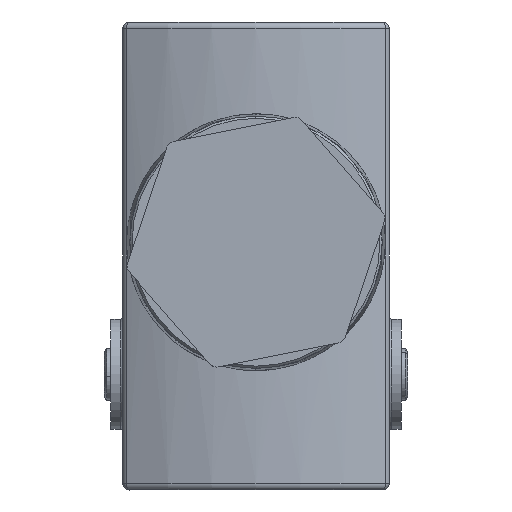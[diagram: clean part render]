
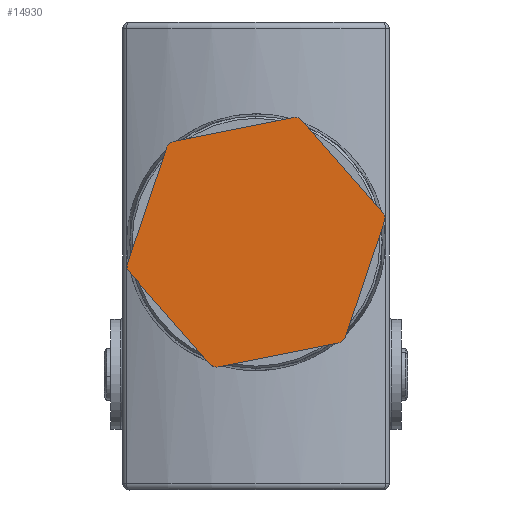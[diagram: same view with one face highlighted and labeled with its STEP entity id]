
A CAD part, front view. The second image highlights one B-rep face of the part: STEP entity #14930.
In plain terms, the highlighted planar face has unit normal (0, -1, 0).
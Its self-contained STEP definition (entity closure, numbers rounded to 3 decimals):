
#361=PLANE('',#16860);
#1417=FACE_OUTER_BOUND('',#1954,.T.);
#1954=EDGE_LOOP('',(#14138,#14139,#14140,#14141,#14142,#14143,#14144,#14145,
#14146,#14147,#14148,#14149));
#4033=LINE('',#43786,#5437);
#4034=LINE('',#43790,#5438);
#4035=LINE('',#43794,#5439);
#4036=LINE('',#43798,#5440);
#4037=LINE('',#43802,#5441);
#4038=LINE('',#43806,#5442);
#5437=VECTOR('',#20017,28.29);
#5438=VECTOR('',#20020,28.29);
#5439=VECTOR('',#20023,28.29);
#5440=VECTOR('',#20026,28.29);
#5441=VECTOR('',#20029,28.29);
#5442=VECTOR('',#20032,28.29);
#6076=CIRCLE('',#16861,2.);
#6077=CIRCLE('',#16862,2.);
#6078=CIRCLE('',#16863,2.);
#6079=CIRCLE('',#16864,2.);
#6080=CIRCLE('',#16865,2.);
#6081=CIRCLE('',#16866,2.);
#8622=VERTEX_POINT('',#43784);
#8623=VERTEX_POINT('',#43785);
#8624=VERTEX_POINT('',#43787);
#8625=VERTEX_POINT('',#43789);
#8626=VERTEX_POINT('',#43791);
#8627=VERTEX_POINT('',#43793);
#8628=VERTEX_POINT('',#43795);
#8629=VERTEX_POINT('',#43797);
#8630=VERTEX_POINT('',#43799);
#8631=VERTEX_POINT('',#43801);
#8632=VERTEX_POINT('',#43803);
#8633=VERTEX_POINT('',#43805);
#11380=EDGE_CURVE('',#8622,#8623,#4033,.T.);
#11381=EDGE_CURVE('',#8623,#8624,#6076,.T.);
#11382=EDGE_CURVE('',#8624,#8625,#4034,.T.);
#11383=EDGE_CURVE('',#8625,#8626,#6077,.T.);
#11384=EDGE_CURVE('',#8626,#8627,#4035,.T.);
#11385=EDGE_CURVE('',#8627,#8628,#6078,.T.);
#11386=EDGE_CURVE('',#8628,#8629,#4036,.T.);
#11387=EDGE_CURVE('',#8629,#8630,#6079,.T.);
#11388=EDGE_CURVE('',#8630,#8631,#4037,.T.);
#11389=EDGE_CURVE('',#8631,#8632,#6080,.T.);
#11390=EDGE_CURVE('',#8632,#8633,#4038,.T.);
#11391=EDGE_CURVE('',#8633,#8622,#6081,.T.);
#14138=ORIENTED_EDGE('',*,*,#11380,.T.);
#14139=ORIENTED_EDGE('',*,*,#11381,.T.);
#14140=ORIENTED_EDGE('',*,*,#11382,.T.);
#14141=ORIENTED_EDGE('',*,*,#11383,.T.);
#14142=ORIENTED_EDGE('',*,*,#11384,.T.);
#14143=ORIENTED_EDGE('',*,*,#11385,.T.);
#14144=ORIENTED_EDGE('',*,*,#11386,.T.);
#14145=ORIENTED_EDGE('',*,*,#11387,.T.);
#14146=ORIENTED_EDGE('',*,*,#11388,.T.);
#14147=ORIENTED_EDGE('',*,*,#11389,.T.);
#14148=ORIENTED_EDGE('',*,*,#11390,.T.);
#14149=ORIENTED_EDGE('',*,*,#11391,.T.);
#14930=ADVANCED_FACE('',(#1417),#361,.T.);
#16860=AXIS2_PLACEMENT_3D('',#43783,#20015,#20016);
#16861=AXIS2_PLACEMENT_3D('',#43788,#20018,#20019);
#16862=AXIS2_PLACEMENT_3D('',#43792,#20021,#20022);
#16863=AXIS2_PLACEMENT_3D('',#43796,#20024,#20025);
#16864=AXIS2_PLACEMENT_3D('',#43800,#20027,#20028);
#16865=AXIS2_PLACEMENT_3D('',#43804,#20030,#20031);
#16866=AXIS2_PLACEMENT_3D('',#43807,#20033,#20034);
#20015=DIRECTION('center_axis',(0.,-1.,0.));
#20016=DIRECTION('ref_axis',(0.,0.,-1.));
#20017=DIRECTION('',(0.66,0.,-0.751));
#20018=DIRECTION('center_axis',(0.,-1.,0.));
#20019=DIRECTION('ref_axis',(-0.751,0.,-0.66));
#20020=DIRECTION('',(0.981,0.,0.196));
#20021=DIRECTION('center_axis',(0.,-1.,0.));
#20022=DIRECTION('ref_axis',(0.196,0.,-0.981));
#20023=DIRECTION('',(0.321,0.,0.947));
#20024=DIRECTION('center_axis',(0.,-1.,0.));
#20025=DIRECTION('ref_axis',(0.947,0.,-0.321));
#20026=DIRECTION('',(-0.66,0.,0.751));
#20027=DIRECTION('center_axis',(0.,-1.,0.));
#20028=DIRECTION('ref_axis',(0.751,0.,0.66));
#20029=DIRECTION('',(-0.981,0.,-0.196));
#20030=DIRECTION('center_axis',(0.,-1.,0.));
#20031=DIRECTION('ref_axis',(-0.196,0.,0.981));
#20032=DIRECTION('',(-0.321,0.,-0.947));
#20033=DIRECTION('center_axis',(0.,-1.,0.));
#20034=DIRECTION('ref_axis',(-0.947,0.,0.321));
#43783=CARTESIAN_POINT('Origin',(30.126,-95.324,5.653));
#43784=CARTESIAN_POINT('',(-29.245,-95.324,-6.861));
#43785=CARTESIAN_POINT('',(-10.575,-95.324,-28.116));
#43786=CARTESIAN_POINT('',(-29.245,-95.324,-6.861));
#43787=CARTESIAN_POINT('',(-8.681,-95.324,-28.757));
#43788=CARTESIAN_POINT('Origin',(-9.072,-95.324,-26.796));
#43789=CARTESIAN_POINT('',(19.061,-95.324,-23.216));
#43790=CARTESIAN_POINT('',(-8.681,-95.324,-28.757));
#43791=CARTESIAN_POINT('',(20.564,-95.324,-21.896));
#43792=CARTESIAN_POINT('Origin',(18.67,-95.324,-21.255));
#43793=CARTESIAN_POINT('',(29.637,-95.324,4.9));
#43794=CARTESIAN_POINT('',(20.564,-95.324,-21.896));
#43795=CARTESIAN_POINT('',(29.245,-95.324,6.861));
#43796=CARTESIAN_POINT('Origin',(27.742,-95.324,5.541));
#43797=CARTESIAN_POINT('',(10.575,-95.324,28.116));
#43798=CARTESIAN_POINT('',(29.245,-95.324,6.861));
#43799=CARTESIAN_POINT('',(8.681,-95.324,28.757));
#43800=CARTESIAN_POINT('Origin',(9.072,-95.324,26.796));
#43801=CARTESIAN_POINT('',(-19.061,-95.324,23.216));
#43802=CARTESIAN_POINT('',(8.681,-95.324,28.757));
#43803=CARTESIAN_POINT('',(-20.564,-95.324,21.896));
#43804=CARTESIAN_POINT('Origin',(-18.67,-95.324,21.255));
#43805=CARTESIAN_POINT('',(-29.637,-95.324,-4.9));
#43806=CARTESIAN_POINT('',(-20.564,-95.324,21.896));
#43807=CARTESIAN_POINT('Origin',(-27.742,-95.324,-5.541));
